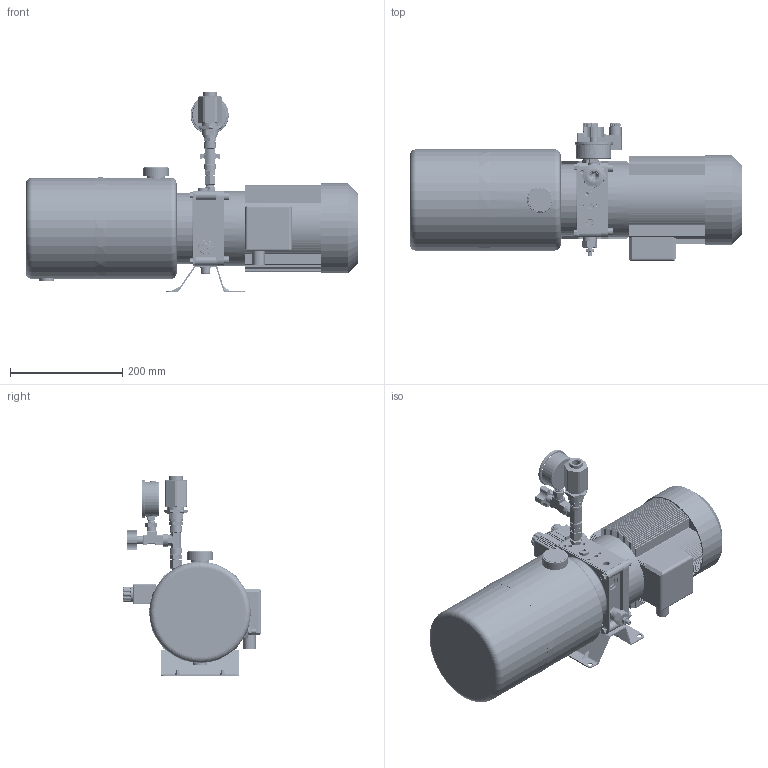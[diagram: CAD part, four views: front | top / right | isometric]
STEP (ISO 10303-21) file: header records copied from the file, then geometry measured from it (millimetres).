
FILE_DESCRIPTION(/* description */ (''),/* implementation_level */ '2;1');
FILE_NAME(/* name */ 'C:\Users\stolbov\Documents\Inventor\!Хлам\PPC-KV-S_Lift05-1,1-160-3,7.stp',/* time_stamp */ '2019-05-28T15:51:08+03:00',/* author */ ('stolbov'),/* organization */ (''),/* preprocessor_version */ 'ST-DEVELOPER v18',/* originating_system */ 'Autodesk Inventor 2020',/* authorisation */ '');
FILE_SCHEMA (('AUTOMOTIVE_DESIGN { 1 0 10303 214 3 1 1 }'));
Products named in the file (1): Деталь3
Bounding box: 591 x 245.77 x 356.3 mm (x, y, z)
Volume: 5630249.7 mm3; surface area: 1412902.9 mm2
Topology: 63 solids, 73 shells, 4763 faces, 12698 edges, 8355 vertices
Faces by surface type: plane 2138, cylinder 1788, cone 376, torus 259, bspline 178, sphere 24
Full cylindrical faces by diameter (mm): 0.2 x1, 0.7 x1, 0.75 x1, 1.5 x2, 2 x1, 2.459 x1, 3 x3, 3.6 x1, 4 x9, 4.134 x8, 4.917 x36, 5 x4, 5.5 x4, 5.88 x1, 6 x9, 6.3 x1, 6.5 x5, 6.647 x20, 7 x1, 7.5 x6, 8 x16, 8.376 x4, 8.5 x2, 8.701 x1, 9 x9, 9.285 x1, 9.3 x1, 9.5 x1, 9.8 x3, 9.91 x3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
Entity records: 186864 total; most frequent: CARTESIAN_POINT 60748, DIRECTION 26226, ORIENTED_EDGE 25316, EDGE_CURVE 12658, AXIS2_PLACEMENT_3D 10042, VERTEX_POINT 8355, LINE 6142, VECTOR 6142
